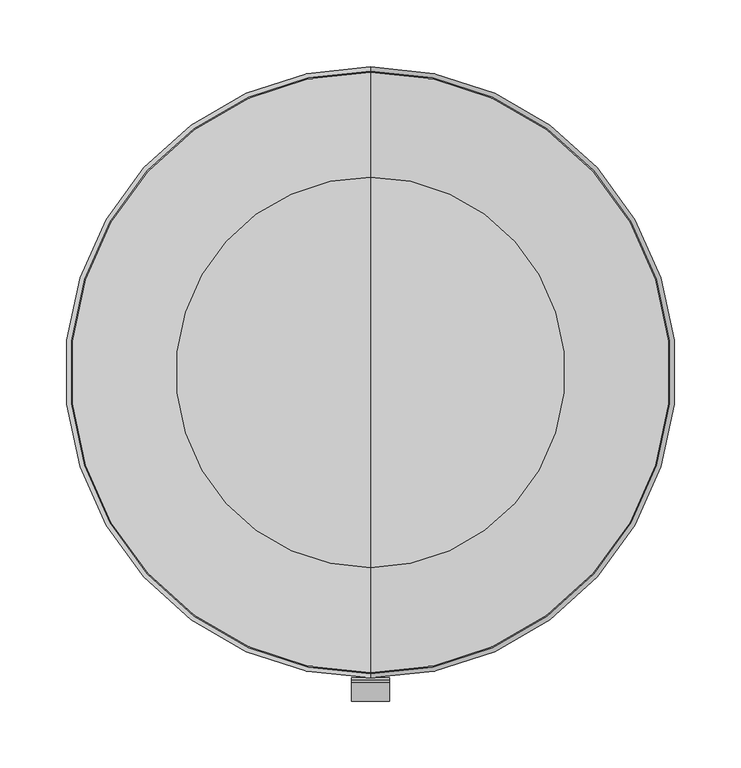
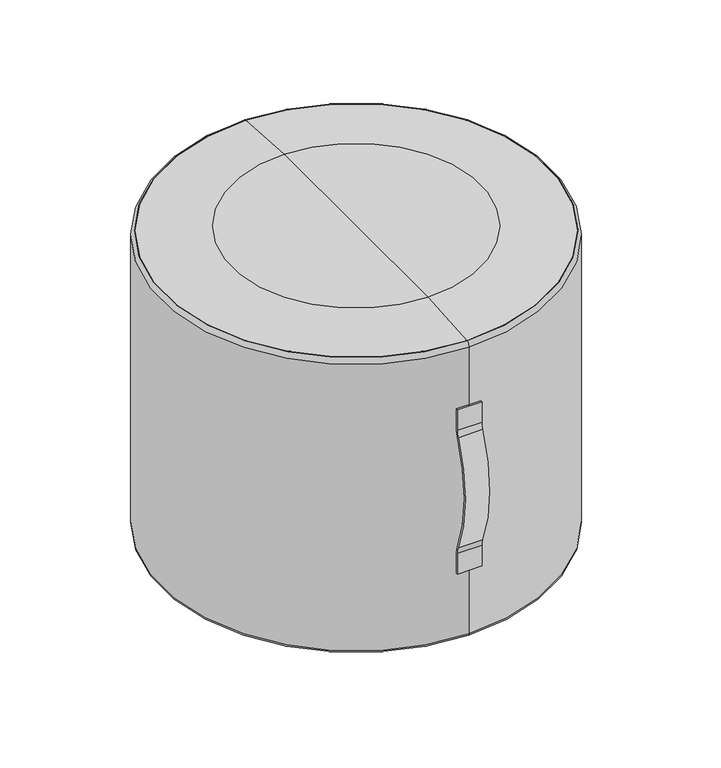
"""IFC4 building model written with IfcOpenShell, lengths in millimetres: furniture geometry, Indiana-Otty-Ottoman_Round : 840-1815RO."""

from ifc_helpers import new_model, si_unit, point, frame, origin, place, context, project, spatial, polyline, circle_curve, ellipse_curve, trimmed, source, transform, mapped, element, save
from ifc_brep_helpers import plane_surface, cylinder_surface, revolved_surface, advanced_brep


def furniture_27540417(model_context):
    return source(origin(), model_context, "Body", "AdvancedBrep", [
        advanced_brep(
        [(-14.2875, -228.463337, 297.85), (-14.2875, -230.0539249, 297.85), (14.2875, -230.0539249, 297.85), (14.2875, -228.463337, 297.85), (-14.2875, -228.463337, 272.2626189), (-14.2875, -230.2174664, 263.8428476), (-14.2875, -230.2174664, 128.6571524), (-14.2875, -228.463337, 120.2373811), (-14.2875, -228.463337, 94.65), (-14.2875, -230.0539249, 94.65), (-14.2875, -230.0539249, 120.2373811), (-14.2875, -231.6757243, 128.0219725), (-14.2875, -231.6757243, 264.4780275), (-14.2875, -230.0539249, 272.2626189), (14.2875, -230.0539249, 272.2626189), (14.2875, -231.6757243, 264.4780275), (14.2875, -231.6757243, 128.0219725), (14.2875, -230.0539249, 120.2373811), (14.2875, -230.0539249, 94.65), (14.2875, -228.463337, 94.65), (14.2875, -228.463337, 120.2373811), (14.2875, -230.2174664, 128.6571524), (14.2875, -230.2174664, 263.8428476), (14.2875, -228.463337, 272.2626189)],
        [
            (0, 1),
            (1, 2, circle_curve(frame((0.0, -0.2977338, 297.85), z_axis=(0.0, 0.0, 1.0), x_axis=(1.0, 0.0, 0.0)), 230.2)),
            (2, 3),
            (3, 0, circle_curve(frame((0.0, -0.2977338, 297.85), z_axis=(0.0, 0.0, -1.0), x_axis=(1.0, 0.0, 0.0)), 228.6125)),
            (0, 4),
            (4, 5, circle_curve(frame((-14.2875, -249.5477338, 272.2626189), z_axis=(-1.0, 0.0, 0.0), x_axis=(0.0, 1.0, 0.0)), 21.0843968)),
            (5, 6, circle_curve(frame((-14.2875, -75.0365507, 196.25), z_axis=(1.0, 0.0, 0.0), x_axis=(0.0, -0.9168043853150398, 0.39933659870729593)), 169.2628419)),
            (6, 7, circle_curve(frame((-14.2875, -249.5477338, 120.2373811), z_axis=(-1.0, 0.0, 0.0), x_axis=(0.0, 0.9168043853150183, 0.3993365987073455)), 21.0843968)),
            (7, 8),
            (8, 9),
            (9, 10),
            (10, 11, circle_curve(frame((-14.2875, -249.5477338, 120.2373811), z_axis=(1.0, 0.0, 0.0), x_axis=(0.0, 0.9168043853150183, 0.3993365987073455)), 19.4938089)),
            (11, 12, circle_curve(frame((-14.2875, -75.0365507, 196.25), z_axis=(-1.0, 0.0, 0.0), x_axis=(0.0, -0.9168043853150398, 0.39933659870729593)), 170.8534297)),
            (12, 13, circle_curve(frame((-14.2875, -249.5477338, 272.2626189), z_axis=(1.0, 0.0, 0.0), x_axis=(0.0, 1.0, 0.0)), 19.4938089)),
            (13, 1),
            (13, 14, circle_curve(frame((0.0, -0.2977338, 272.2626189), z_axis=(0.0, 0.0, 1.0), x_axis=(1.0, 0.0, 0.0)), 230.2)),
            (14, 2),
            (14, 15, circle_curve(frame((14.2875, -249.5477338, 272.2626189), z_axis=(-1.0, 0.0, 0.0), x_axis=(0.0, 1.0, 0.0)), 19.4938089)),
            (15, 16, circle_curve(frame((14.2875, -75.0365507, 196.25), z_axis=(1.0, 0.0, 0.0), x_axis=(0.0, -0.9168043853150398, 0.39933659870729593)), 170.8534297)),
            (16, 17, circle_curve(frame((14.2875, -249.5477338, 120.2373811), z_axis=(-1.0, 0.0, 0.0), x_axis=(0.0, 0.9168043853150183, 0.3993365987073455)), 19.4938089)),
            (17, 18),
            (18, 19),
            (19, 20),
            (20, 21, circle_curve(frame((14.2875, -249.5477338, 120.2373811), z_axis=(1.0, 0.0, 0.0), x_axis=(0.0, 0.9168043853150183, 0.3993365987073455)), 21.0843968)),
            (21, 22, circle_curve(frame((14.2875, -75.0365507, 196.25), z_axis=(-1.0, 0.0, 0.0), x_axis=(0.0, -0.9168043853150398, 0.39933659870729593)), 169.2628419)),
            (22, 23, circle_curve(frame((14.2875, -249.5477338, 272.2626189), z_axis=(1.0, 0.0, 0.0), x_axis=(0.0, 1.0, 0.0)), 21.0843968)),
            (23, 3),
            (23, 4, circle_curve(frame((0.0, -0.2977338, 272.2626189), z_axis=(0.0, 0.0, -1.0), x_axis=(1.0, 0.0, 0.0)), 228.6125)),
            (12, 15, circle_curve(frame((0.0, -21.0342408, 172.7279716), z_axis=(0.0, 0.39933659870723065, 0.9168043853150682), x_axis=(1.0, 0.0, 0.0)), 230.2)),
            (22, 5, circle_curve(frame((0.0, -21.0342408, 172.7279716), z_axis=(0.0, -0.399336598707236, -0.9168043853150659), x_axis=(1.0, 0.0, 0.0)), 228.6125)),
            (11, 16, circle_curve(frame((0.0, -21.0342408, 219.7720284), z_axis=(0.0, -0.3993365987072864, 0.9168043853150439), x_axis=(1.0, 0.0, 0.0)), 230.2)),
            (21, 6, circle_curve(frame((0.0, -21.0342408, 219.7720284), z_axis=(0.0, 0.39933659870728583, -0.9168043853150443), x_axis=(1.0, 0.0, 0.0)), 228.6125)),
            (10, 17, circle_curve(frame((0.0, -0.2977338, 120.2373811), z_axis=(0.0, 0.0, 1.0), x_axis=(1.0, 0.0, 0.0)), 230.2)),
            (20, 7, circle_curve(frame((0.0, -0.2977338, 120.2373811), z_axis=(0.0, 0.0, -1.0), x_axis=(1.0, 0.0, 0.0)), 228.6125)),
            (8, 19, circle_curve(frame((0.0, -0.2977338, 94.65), z_axis=(0.0, 0.0, 1.0), x_axis=(1.0, 0.0, 0.0)), 228.6125)),
            (18, 9, circle_curve(frame((0.0, -0.2977338, 94.65), z_axis=(0.0, 0.0, -1.0), x_axis=(1.0, 0.0, 0.0)), 230.2)),
        ],
        [
            plane_surface(frame((0.0, -230.4977338, 297.85), z_axis=(0.0, 0.0, 1.0), x_axis=(1.0, 0.0, 0.0))),
            plane_surface(frame((-14.2875, -228.463337, 297.85), z_axis=(-1.0, 0.0, 0.0), x_axis=(0.0, 0.0, -1.0))),
            cylinder_surface(frame((0.0, -0.2977338, 297.85), z_axis=(0.0, 0.0, 1.0), x_axis=(1.0, 0.0, 0.0)), 230.2),
            plane_surface(frame((14.2875, -230.0539249, 297.85), z_axis=(1.0, 0.0, 0.0), x_axis=(0.0, 0.0, -1.0))),
            revolved_surface(polyline([(228.6125, -0.2977338, 272.2626189), (228.6125, -0.2977338, 297.85)]), (0.0, -0.2977338, 297.85), (0.0, 0.0, -1.0)),
            revolved_surface(trimmed(ellipse_curve(frame((0.0, -0.2977338, 272.2626189), z_axis=(0.0, 0.0, 1.0), x_axis=(1.0, 0.0, 0.0)), 230.2, 230.2), [point((-14.2875, -230.0539249, 272.2626189))], [point((14.2875, -230.0539249, 272.2626189))], True, "CARTESIAN"), (0.0, -249.5477338, 272.2626189), (-1.0, 0.0, 0.0)),
            revolved_surface(trimmed(ellipse_curve(frame((0.0, -0.2977338, 272.2626189), z_axis=(0.0, 0.0, -1.0), x_axis=(1.0, 0.0, 0.0)), 228.6125, 228.6125), [point((14.2875, -228.463337, 272.2626189))], [point((-14.2875, -228.463337, 272.2626189))], True, "CARTESIAN"), (0.0, -249.5477338, 272.2626189), (-1.0, 0.0, 0.0)),
            revolved_surface(trimmed(ellipse_curve(frame((0.0, -21.0342408, 172.7279716), z_axis=(0.0, 0.39933659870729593, 0.9168043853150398), x_axis=(1.0, 0.0, 0.0)), 230.2, 230.2), [point((-14.2875, -231.6757243, 264.4780275))], [point((14.2875, -231.6757243, 264.4780275))], True, "CARTESIAN"), (0.0, -75.0365507, 196.25), (1.0, 0.0, 0.0)),
            revolved_surface(trimmed(ellipse_curve(frame((0.0, -21.0342408, 172.7279716), z_axis=(0.0, -0.39933659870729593, -0.9168043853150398), x_axis=(1.0, 0.0, 0.0)), 228.6125, 228.6125), [point((14.2875, -230.2174664, 263.8428476))], [point((-14.2875, -230.2174664, 263.8428476))], True, "CARTESIAN"), (0.0, -75.0365507, 196.25), (1.0, 0.0, 0.0)),
            revolved_surface(trimmed(ellipse_curve(frame((0.0, -21.0342408, 219.7720284), z_axis=(0.0, -0.3993365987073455, 0.9168043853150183), x_axis=(1.0, 0.0, 0.0)), 230.2, 230.2), [point((-14.2875, -231.6757243, 128.0219725))], [point((14.2875, -231.6757243, 128.0219725))], True, "CARTESIAN"), (0.0, -249.5477338, 120.2373811), (-1.0, 0.0, 0.0)),
            revolved_surface(trimmed(ellipse_curve(frame((0.0, -21.0342408, 219.7720284), z_axis=(0.0, 0.3993365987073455, -0.9168043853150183), x_axis=(1.0, 0.0, 0.0)), 228.6125, 228.6125), [point((14.2875, -230.2174664, 128.6571524))], [point((-14.2875, -230.2174664, 128.6571524))], True, "CARTESIAN"), (0.0, -249.5477338, 120.2373811), (-1.0, 0.0, 0.0)),
            plane_surface(frame((0.0, -230.4977338, 94.65), z_axis=(0.0, 0.0, -1.0), x_axis=(1.0, 0.0, 0.0))),
            cylinder_surface(frame((0.0, -0.2977338, 120.2373811), z_axis=(0.0, 0.0, 1.0), x_axis=(1.0, 0.0, 0.0)), 230.2),
            revolved_surface(polyline([(228.6125, -0.2977338, 94.65), (228.6125, -0.2977338, 120.2373811)]), (0.0, -0.2977338, 120.2373811), (0.0, 0.0, -1.0)),
        ],
        [
            (0, [[1, 2, 3, 4]]),
            (1, [[-1, 5, 6, 7, 8, 9, 10, 11, 12, 13, 14, 15]]),
            (2, [[-2, -15, 16, 17]]),
            (3, [[-3, -17, 18, 19, 20, 21, 22, 23, 24, 25, 26, 27]]),
            (4, [[-4, -27, 28, -5]]),
            (5, [[-18, -16, -14, 29]]),
            (6, [[-6, -28, -26, 30]]),
            (7, [[-19, -29, -13, 31]]),
            (8, [[-7, -30, -25, 32]]),
            (9, [[-20, -31, -12, 33]]),
            (10, [[-8, -32, -24, 34]]),
            (11, [[35, -22, 36, -10]]),
            (12, [[-33, -11, -36, -21]]),
            (13, [[-34, -23, -35, -9]]),
        ],
    ),
        advanced_brep(
        [(126.4514457, -129.4834071, 19.8875), (126.4514457, -106.9834071, 19.8875), (126.4514457, -151.9834071, 19.8875), (126.4514457, -107.4318989, 4.2458827), (126.4514457, -151.5349153, 4.2458827), (126.4514457, -111.9170406, -0.1125), (126.4514457, -147.0497736, -0.1125), (126.4514457, -119.2157893, -0.1125), (126.4514457, -139.7510249, -0.1125), (126.4514457, -123.1102654, 3.9179615), (126.4514457, -135.8565488, 3.9179615), (126.4514457, -129.4834071, 3.9179615)],
        [
            (0, 1),
            (1, 2, circle_curve(frame((126.4514457, -129.4834071, 19.8875), z_axis=(0.0, 0.0, 1.0), x_axis=(0.0, 1.0, 0.0)), 22.5)),
            (2, 0),
            (2, 1, circle_curve(frame((126.4514457, -129.4834071, 19.8875), z_axis=(0.0, 0.0, 1.0), x_axis=(0.0, 1.0, 0.0)), 22.5)),
            (1, 3),
            (3, 4, circle_curve(frame((126.4514457, -129.4834071, 4.2458827), z_axis=(0.0, 0.0, 1.0), x_axis=(0.0, 1.0, 0.0)), 22.0515082)),
            (4, 2),
            (4, 3, circle_curve(frame((126.4514457, -129.4834071, 4.2458827), z_axis=(0.0, 0.0, 1.0), x_axis=(0.0, 1.0, 0.0)), 22.0515082)),
            (3, 5, circle_curve(frame((126.4514457, -111.9170406, 4.3744851), z_axis=(-1.0, 0.0, 0.0), x_axis=(0.0, -1.0, 0.0)), 4.4869851)),
            (5, 6, circle_curve(frame((126.4514457, -129.4834071, -0.1125), z_axis=(0.0, 0.0, 1.0), x_axis=(0.0, 1.0, 0.0)), 17.5663665)),
            (6, 4, circle_curve(frame((126.4514457, -147.0497736, 4.3744851), z_axis=(-1.0, 0.0, 0.0), x_axis=(0.0, 1.0, 0.0)), 4.4869851)),
            (6, 5, circle_curve(frame((126.4514457, -129.4834071, -0.1125), z_axis=(0.0, 0.0, 1.0), x_axis=(0.0, 1.0, 0.0)), 17.5663665)),
            (5, 7),
            (7, 8, circle_curve(frame((126.4514457, -129.4834071, -0.1125), z_axis=(0.0, 0.0, 1.0), x_axis=(0.0, 1.0, 0.0)), 10.2676178)),
            (8, 6),
            (8, 7, circle_curve(frame((126.4514457, -129.4834071, -0.1125), z_axis=(0.0, 0.0, 1.0), x_axis=(0.0, 1.0, 0.0)), 10.2676178)),
            (7, 9, circle_curve(frame((126.4514457, -119.2157893, 3.7842702), z_axis=(-1.0, 0.0, 0.0), x_axis=(0.0, -1.0, 0.0)), 3.8967702)),
            (9, 10, circle_curve(frame((126.4514457, -129.4834071, 3.9179615), z_axis=(0.0, 0.0, 1.0), x_axis=(0.0, 1.0, 0.0)), 6.3731417)),
            (10, 8, circle_curve(frame((126.4514457, -139.7510249, 3.7842702), z_axis=(-1.0, 0.0, 0.0), x_axis=(0.0, 1.0, 0.0)), 3.8967702)),
            (10, 9, circle_curve(frame((126.4514457, -129.4834071, 3.9179615), z_axis=(0.0, 0.0, 1.0), x_axis=(0.0, 1.0, 0.0)), 6.3731417)),
            (9, 11),
            (11, 10),
        ],
        [
            plane_surface(frame((126.4514457, -129.4834071, 19.8875), z_axis=(0.0, 0.0, 1.0), x_axis=(0.0, 1.0, 0.0))),
            revolved_surface(polyline([(126.4514457, -107.4318989, 4.2458827), (126.4514457, -106.9834071, 19.8875)]), (126.4514457, -129.4834071, 31.0803862), (0.0, 0.0, 1.0)),
            revolved_surface(trimmed(ellipse_curve(frame((126.4514457, -111.9170406, 4.3744851), z_axis=(1.0, 0.0, 0.0), x_axis=(0.0, -1.0, 0.0)), 4.4869851, 4.4869851), [point((126.4514457, -111.9170406, -0.1125))], [point((126.4514457, -107.4318989, 4.2458827))], True, "CARTESIAN"), (126.4514457, -129.4834071, 31.0803862), (0.0, 0.0, 1.0)),
            plane_surface(frame((126.4514457, -129.4834071, -0.1125), z_axis=(0.0, 0.0, -1.0), x_axis=(0.0, 1.0, 0.0))),
            revolved_surface(trimmed(ellipse_curve(frame((126.4514457, -119.2157893, 3.7842702), z_axis=(1.0, 0.0, 0.0), x_axis=(0.0, -1.0, 0.0)), 3.8967702, 3.8967702), [point((126.4514457, -123.1102654, 3.9179615))], [point((126.4514457, -119.2157893, -0.1125))], True, "CARTESIAN"), (126.4514457, -129.4834071, 31.0803862), (0.0, 0.0, 1.0)),
            plane_surface(frame((126.4514457, -129.4834071, 3.9179615), z_axis=(0.0, 0.0, -1.0), x_axis=(0.0, 1.0, 0.0))),
        ],
        [
            (0, [[1, 2, 3]]),
            (0, [[-3, 4, -1]]),
            (1, [[-2, 5, 6, 7]]),
            (1, [[-4, -7, 8, -5]]),
            (2, [[-6, 9, 10, 11]]),
            (2, [[-8, -11, 12, -9]]),
            (3, [[-10, 13, 14, 15]]),
            (3, [[-12, -15, 16, -13]]),
            (4, [[-14, 17, 18, 19]]),
            (4, [[-16, -19, 20, -17]]),
            (5, [[-18, 21, 22]]),
            (5, [[-20, -22, -21]]),
        ],
    ),
        advanced_brep(
        [(-129.4834071, -126.4514457, 19.8875), (-106.9834071, -126.4514457, 19.8875), (-151.9834071, -126.4514457, 19.8875), (-107.4318989, -126.4514457, 4.2458827), (-151.5349153, -126.4514457, 4.2458827), (-111.9170406, -126.4514457, -0.1125), (-147.0497736, -126.4514457, -0.1125), (-119.2157893, -126.4514457, -0.1125), (-139.7510249, -126.4514457, -0.1125), (-123.1102654, -126.4514457, 3.9179615), (-135.8565488, -126.4514457, 3.9179615), (-129.4834071, -126.4514457, 3.9179615)],
        [
            (0, 1),
            (1, 2, circle_curve(frame((-129.4834071, -126.4514457, 19.8875), z_axis=(0.0, 0.0, 1.0), x_axis=(1.0, 0.0, 0.0)), 22.5)),
            (2, 0),
            (2, 1, circle_curve(frame((-129.4834071, -126.4514457, 19.8875), z_axis=(0.0, 0.0, 1.0), x_axis=(1.0, 0.0, 0.0)), 22.5)),
            (1, 3),
            (3, 4, circle_curve(frame((-129.4834071, -126.4514457, 4.2458827), z_axis=(0.0, 0.0, 1.0), x_axis=(1.0, 0.0, 0.0)), 22.0515082)),
            (4, 2),
            (4, 3, circle_curve(frame((-129.4834071, -126.4514457, 4.2458827), z_axis=(0.0, 0.0, 1.0), x_axis=(1.0, 0.0, 0.0)), 22.0515082)),
            (3, 5, circle_curve(frame((-111.9170406, -126.4514457, 4.3744851), z_axis=(0.0, 1.0, 0.0), x_axis=(-1.0, 0.0, 0.0)), 4.4869851)),
            (5, 6, circle_curve(frame((-129.4834071, -126.4514457, -0.1125), z_axis=(0.0, 0.0, 1.0), x_axis=(1.0, 0.0, 0.0)), 17.5663665)),
            (6, 4, circle_curve(frame((-147.0497736, -126.4514457, 4.3744851), z_axis=(0.0, 1.0, 0.0), x_axis=(1.0, 0.0, 0.0)), 4.4869851)),
            (6, 5, circle_curve(frame((-129.4834071, -126.4514457, -0.1125), z_axis=(0.0, 0.0, 1.0), x_axis=(1.0, 0.0, 0.0)), 17.5663665)),
            (5, 7),
            (7, 8, circle_curve(frame((-129.4834071, -126.4514457, -0.1125), z_axis=(0.0, 0.0, 1.0), x_axis=(1.0, 0.0, 0.0)), 10.2676178)),
            (8, 6),
            (8, 7, circle_curve(frame((-129.4834071, -126.4514457, -0.1125), z_axis=(0.0, 0.0, 1.0), x_axis=(1.0, 0.0, 0.0)), 10.2676178)),
            (7, 9, circle_curve(frame((-119.2157893, -126.4514457, 3.7842702), z_axis=(0.0, 1.0, 0.0), x_axis=(-1.0, 0.0, 0.0)), 3.8967702)),
            (9, 10, circle_curve(frame((-129.4834071, -126.4514457, 3.9179615), z_axis=(0.0, 0.0, 1.0), x_axis=(1.0, 0.0, 0.0)), 6.3731417)),
            (10, 8, circle_curve(frame((-139.7510249, -126.4514457, 3.7842702), z_axis=(0.0, 1.0, 0.0), x_axis=(1.0, 0.0, 0.0)), 3.8967702)),
            (10, 9, circle_curve(frame((-129.4834071, -126.4514457, 3.9179615), z_axis=(0.0, 0.0, 1.0), x_axis=(1.0, 0.0, 0.0)), 6.3731417)),
            (9, 11),
            (11, 10),
        ],
        [
            plane_surface(frame((-129.4834071, -126.4514457, 19.8875), z_axis=(0.0, 0.0, 1.0), x_axis=(1.0, 0.0, 0.0))),
            revolved_surface(polyline([(-107.4318989, -126.4514457, 4.2458827), (-106.9834071, -126.4514457, 19.8875)]), (-129.4834071, -126.4514457, 31.0803862), (0.0, 0.0, 1.0)),
            revolved_surface(trimmed(ellipse_curve(frame((-111.9170406, -126.4514457, 4.3744851), z_axis=(0.0, -1.0, 0.0), x_axis=(-1.0, 0.0, 0.0)), 4.4869851, 4.4869851), [point((-111.9170406, -126.4514457, -0.1125))], [point((-107.4318989, -126.4514457, 4.2458827))], True, "CARTESIAN"), (-129.4834071, -126.4514457, 31.0803862), (0.0, 0.0, 1.0)),
            plane_surface(frame((-129.4834071, -126.4514457, -0.1125), z_axis=(0.0, 0.0, -1.0), x_axis=(1.0, 0.0, 0.0))),
            revolved_surface(trimmed(ellipse_curve(frame((-119.2157893, -126.4514457, 3.7842702), z_axis=(0.0, -1.0, 0.0), x_axis=(-1.0, 0.0, 0.0)), 3.8967702, 3.8967702), [point((-123.1102654, -126.4514457, 3.9179615))], [point((-119.2157893, -126.4514457, -0.1125))], True, "CARTESIAN"), (-129.4834071, -126.4514457, 31.0803862), (0.0, 0.0, 1.0)),
            plane_surface(frame((-129.4834071, -126.4514457, 3.9179615), z_axis=(0.0, 0.0, -1.0), x_axis=(1.0, 0.0, 0.0))),
        ],
        [
            (0, [[1, 2, 3]]),
            (0, [[-3, 4, -1]]),
            (1, [[-2, 5, 6, 7]]),
            (1, [[-4, -7, 8, -5]]),
            (2, [[-6, 9, 10, 11]]),
            (2, [[-8, -11, 12, -9]]),
            (3, [[-10, 13, 14, 15]]),
            (3, [[-12, -15, 16, -13]]),
            (4, [[-14, 17, 18, 19]]),
            (4, [[-16, -19, 20, -17]]),
            (5, [[-18, 21, 22]]),
            (5, [[-20, -22, -21]]),
        ],
    ),
        advanced_brep(
        [(129.4834071, 126.4514457, 19.8875), (106.9834071, 126.4514457, 19.8875), (151.9834071, 126.4514457, 19.8875), (107.4318989, 126.4514457, 4.2458827), (151.5349153, 126.4514457, 4.2458827), (111.9170406, 126.4514457, -0.1125), (147.0497736, 126.4514457, -0.1125), (119.2157893, 126.4514457, -0.1125), (139.7510249, 126.4514457, -0.1125), (123.1102654, 126.4514457, 3.9179615), (135.8565488, 126.4514457, 3.9179615), (129.4834071, 126.4514457, 3.9179615)],
        [
            (0, 1),
            (1, 2, circle_curve(frame((129.4834071, 126.4514457, 19.8875), z_axis=(0.0, 0.0, 1.0), x_axis=(-1.0, 0.0, 0.0)), 22.5)),
            (2, 0),
            (2, 1, circle_curve(frame((129.4834071, 126.4514457, 19.8875), z_axis=(0.0, 0.0, 1.0), x_axis=(-1.0, 0.0, 0.0)), 22.5)),
            (1, 3),
            (3, 4, circle_curve(frame((129.4834071, 126.4514457, 4.2458827), z_axis=(0.0, 0.0, 1.0), x_axis=(-1.0, 0.0, 0.0)), 22.0515082)),
            (4, 2),
            (4, 3, circle_curve(frame((129.4834071, 126.4514457, 4.2458827), z_axis=(0.0, 0.0, 1.0), x_axis=(-1.0, 0.0, 0.0)), 22.0515082)),
            (3, 5, circle_curve(frame((111.9170406, 126.4514457, 4.3744851), z_axis=(0.0, -1.0, 0.0), x_axis=(1.0, 0.0, 0.0)), 4.4869851)),
            (5, 6, circle_curve(frame((129.4834071, 126.4514457, -0.1125), z_axis=(0.0, 0.0, 1.0), x_axis=(-1.0, 0.0, 0.0)), 17.5663665)),
            (6, 4, circle_curve(frame((147.0497736, 126.4514457, 4.3744851), z_axis=(0.0, -1.0, 0.0), x_axis=(-1.0, 0.0, 0.0)), 4.4869851)),
            (6, 5, circle_curve(frame((129.4834071, 126.4514457, -0.1125), z_axis=(0.0, 0.0, 1.0), x_axis=(-1.0, 0.0, 0.0)), 17.5663665)),
            (5, 7),
            (7, 8, circle_curve(frame((129.4834071, 126.4514457, -0.1125), z_axis=(0.0, 0.0, 1.0), x_axis=(-1.0, 0.0, 0.0)), 10.2676178)),
            (8, 6),
            (8, 7, circle_curve(frame((129.4834071, 126.4514457, -0.1125), z_axis=(0.0, 0.0, 1.0), x_axis=(-1.0, 0.0, 0.0)), 10.2676178)),
            (7, 9, circle_curve(frame((119.2157893, 126.4514457, 3.7842702), z_axis=(0.0, -1.0, 0.0), x_axis=(1.0, 0.0, 0.0)), 3.8967702)),
            (9, 10, circle_curve(frame((129.4834071, 126.4514457, 3.9179615), z_axis=(0.0, 0.0, 1.0), x_axis=(-1.0, 0.0, 0.0)), 6.3731417)),
            (10, 8, circle_curve(frame((139.7510249, 126.4514457, 3.7842702), z_axis=(0.0, -1.0, 0.0), x_axis=(-1.0, 0.0, 0.0)), 3.8967702)),
            (10, 9, circle_curve(frame((129.4834071, 126.4514457, 3.9179615), z_axis=(0.0, 0.0, 1.0), x_axis=(-1.0, 0.0, 0.0)), 6.3731417)),
            (9, 11),
            (11, 10),
        ],
        [
            plane_surface(frame((129.4834071, 126.4514457, 19.8875), z_axis=(0.0, 0.0, 1.0), x_axis=(-1.0, 0.0, 0.0))),
            revolved_surface(polyline([(107.4318989, 126.4514457, 4.2458827), (106.9834071, 126.4514457, 19.8875)]), (129.4834071, 126.4514457, 31.0803862), (0.0, 0.0, 1.0)),
            revolved_surface(trimmed(ellipse_curve(frame((111.9170406, 126.4514457, 4.3744851), z_axis=(0.0, 1.0, 0.0), x_axis=(1.0, 0.0, 0.0)), 4.4869851, 4.4869851), [point((111.9170406, 126.4514457, -0.1125))], [point((107.4318989, 126.4514457, 4.2458827))], True, "CARTESIAN"), (129.4834071, 126.4514457, 31.0803862), (0.0, 0.0, 1.0)),
            plane_surface(frame((129.4834071, 126.4514457, -0.1125), z_axis=(0.0, 0.0, -1.0), x_axis=(-1.0, 0.0, 0.0))),
            revolved_surface(trimmed(ellipse_curve(frame((119.2157893, 126.4514457, 3.7842702), z_axis=(0.0, 1.0, 0.0), x_axis=(1.0, 0.0, 0.0)), 3.8967702, 3.8967702), [point((123.1102654, 126.4514457, 3.9179615))], [point((119.2157893, 126.4514457, -0.1125))], True, "CARTESIAN"), (129.4834071, 126.4514457, 31.0803862), (0.0, 0.0, 1.0)),
            plane_surface(frame((129.4834071, 126.4514457, 3.9179615), z_axis=(0.0, 0.0, -1.0), x_axis=(-1.0, 0.0, 0.0))),
        ],
        [
            (0, [[1, 2, 3]]),
            (0, [[-3, 4, -1]]),
            (1, [[-2, 5, 6, 7]]),
            (1, [[-4, -7, 8, -5]]),
            (2, [[-6, 9, 10, 11]]),
            (2, [[-8, -11, 12, -9]]),
            (3, [[-10, 13, 14, 15]]),
            (3, [[-12, -15, 16, -13]]),
            (4, [[-14, 17, 18, 19]]),
            (4, [[-16, -19, 20, -17]]),
            (5, [[-18, 21, 22]]),
            (5, [[-20, -22, -21]]),
        ],
    ),
        advanced_brep(
        [(-126.4514457, 129.4834071, 19.8875), (-126.4514457, 106.9834071, 19.8875), (-126.4514457, 151.9834071, 19.8875), (-126.4514457, 107.4318989, 4.2458827), (-126.4514457, 151.5349153, 4.2458827), (-126.4514457, 111.9170406, -0.1125), (-126.4514457, 147.0497736, -0.1125), (-126.4514457, 119.2157893, -0.1125), (-126.4514457, 139.7510249, -0.1125), (-126.4514457, 123.1102654, 3.9179615), (-126.4514457, 135.8565488, 3.9179615), (-126.4514457, 129.4834071, 3.9179615)],
        [
            (0, 1),
            (1, 2, circle_curve(frame((-126.4514457, 129.4834071, 19.8875), z_axis=(0.0, 0.0, 1.0), x_axis=(0.0, -1.0, 0.0)), 22.5)),
            (2, 0),
            (2, 1, circle_curve(frame((-126.4514457, 129.4834071, 19.8875), z_axis=(0.0, 0.0, 1.0), x_axis=(0.0, -1.0, 0.0)), 22.5)),
            (1, 3),
            (3, 4, circle_curve(frame((-126.4514457, 129.4834071, 4.2458827), z_axis=(0.0, 0.0, 1.0), x_axis=(0.0, -1.0, 0.0)), 22.0515082)),
            (4, 2),
            (4, 3, circle_curve(frame((-126.4514457, 129.4834071, 4.2458827), z_axis=(0.0, 0.0, 1.0), x_axis=(0.0, -1.0, 0.0)), 22.0515082)),
            (3, 5, circle_curve(frame((-126.4514457, 111.9170406, 4.3744851), z_axis=(1.0, 0.0, 0.0), x_axis=(0.0, 1.0, 0.0)), 4.4869851)),
            (5, 6, circle_curve(frame((-126.4514457, 129.4834071, -0.1125), z_axis=(0.0, 0.0, 1.0), x_axis=(0.0, -1.0, 0.0)), 17.5663665)),
            (6, 4, circle_curve(frame((-126.4514457, 147.0497736, 4.3744851), z_axis=(1.0, 0.0, 0.0), x_axis=(0.0, -1.0, 0.0)), 4.4869851)),
            (6, 5, circle_curve(frame((-126.4514457, 129.4834071, -0.1125), z_axis=(0.0, 0.0, 1.0), x_axis=(0.0, -1.0, 0.0)), 17.5663665)),
            (5, 7),
            (7, 8, circle_curve(frame((-126.4514457, 129.4834071, -0.1125), z_axis=(0.0, 0.0, 1.0), x_axis=(0.0, -1.0, 0.0)), 10.2676178)),
            (8, 6),
            (8, 7, circle_curve(frame((-126.4514457, 129.4834071, -0.1125), z_axis=(0.0, 0.0, 1.0), x_axis=(0.0, -1.0, 0.0)), 10.2676178)),
            (7, 9, circle_curve(frame((-126.4514457, 119.2157893, 3.7842702), z_axis=(1.0, 0.0, 0.0), x_axis=(0.0, 1.0, 0.0)), 3.8967702)),
            (9, 10, circle_curve(frame((-126.4514457, 129.4834071, 3.9179615), z_axis=(0.0, 0.0, 1.0), x_axis=(0.0, -1.0, 0.0)), 6.3731417)),
            (10, 8, circle_curve(frame((-126.4514457, 139.7510249, 3.7842702), z_axis=(1.0, 0.0, 0.0), x_axis=(0.0, -1.0, 0.0)), 3.8967702)),
            (10, 9, circle_curve(frame((-126.4514457, 129.4834071, 3.9179615), z_axis=(0.0, 0.0, 1.0), x_axis=(0.0, -1.0, 0.0)), 6.3731417)),
            (9, 11),
            (11, 10),
        ],
        [
            plane_surface(frame((-126.4514457, 129.4834071, 19.8875), z_axis=(0.0, 0.0, 1.0), x_axis=(0.0, -1.0, 0.0))),
            revolved_surface(polyline([(-126.4514457, 107.4318989, 4.2458827), (-126.4514457, 106.9834071, 19.8875)]), (-126.4514457, 129.4834071, 31.0803862), (0.0, 0.0, 1.0)),
            revolved_surface(trimmed(ellipse_curve(frame((-126.4514457, 111.9170406, 4.3744851), z_axis=(-1.0, 0.0, 0.0), x_axis=(0.0, 1.0, 0.0)), 4.4869851, 4.4869851), [point((-126.4514457, 111.9170406, -0.1125))], [point((-126.4514457, 107.4318989, 4.2458827))], True, "CARTESIAN"), (-126.4514457, 129.4834071, 31.0803862), (0.0, 0.0, 1.0)),
            plane_surface(frame((-126.4514457, 129.4834071, -0.1125), z_axis=(0.0, 0.0, -1.0), x_axis=(0.0, -1.0, 0.0))),
            revolved_surface(trimmed(ellipse_curve(frame((-126.4514457, 119.2157893, 3.7842702), z_axis=(-1.0, 0.0, 0.0), x_axis=(0.0, 1.0, 0.0)), 3.8967702, 3.8967702), [point((-126.4514457, 123.1102654, 3.9179615))], [point((-126.4514457, 119.2157893, -0.1125))], True, "CARTESIAN"), (-126.4514457, 129.4834071, 31.0803862), (0.0, 0.0, 1.0)),
            plane_surface(frame((-126.4514457, 129.4834071, 3.9179615), z_axis=(0.0, 0.0, -1.0), x_axis=(0.0, -1.0, 0.0))),
        ],
        [
            (0, [[1, 2, 3]]),
            (0, [[-3, 4, -1]]),
            (1, [[-2, 5, 6, 7]]),
            (1, [[-4, -7, 8, -5]]),
            (2, [[-6, 9, 10, 11]]),
            (2, [[-8, -11, 12, -9]]),
            (3, [[-10, 13, 14, 15]]),
            (3, [[-12, -15, 16, -13]]),
            (4, [[-14, 17, 18, 19]]),
            (4, [[-16, -19, 20, -17]]),
            (5, [[-18, 21, 22]]),
            (5, [[-20, -22, -21]]),
        ],
    ),
        advanced_brep(
        [(0.0, 228.6, 14.675), (0.0, 225.425, 11.5), (0.0, -225.425, 11.5), (0.0, -228.6, 14.675), (0.0, 228.6, 369.0), (0.0, -228.6, 369.0), (0.0, 225.3317905, 375.2073863), (0.0, -225.3317905, 375.2073863), (0.0, 224.6, 374.9999966), (0.0, -224.6, 374.9999966), (0.0, 146.05, 381.0), (0.0, -146.05, 381.0), (0.0, 0.0, 381.0), (0.0, 0.0, 11.5), (-129.4834071, -149.4701957, 11.5), (-129.4834071, -103.4326957, 11.5), (-149.4701957, 129.4834071, 11.5), (-103.4326957, 129.4834071, 11.5), (149.4701957, -129.4834071, 11.5), (103.4326957, -129.4834071, 11.5), (129.4834071, 149.4701957, 11.5), (129.4834071, 103.4326957, 11.5), (-129.4834071, -103.4326957, 19.834375), (-129.4834071, -149.4701957, 19.834375), (103.4326957, -129.4834071, 19.834375), (149.4701957, -129.4834071, 19.834375), (129.4834071, 103.4326957, 19.834375), (129.4834071, 149.4701957, 19.834375), (-103.4326957, 129.4834071, 19.834375), (-149.4701957, 129.4834071, 19.834375)],
        [
            (0, 1, circle_curve(frame((0.0, 225.425, 14.675), z_axis=(-1.0, 0.0, 0.0), x_axis=(0.0, 1.0, 0.0)), 3.175)),
            (1, 2, circle_curve(frame((0.0, 0.0, 11.5), z_axis=(0.0, 0.0, 1.0), x_axis=(0.0, 1.0, 0.0)), 225.425)),
            (2, 3, circle_curve(frame((0.0, -225.425, 14.675), z_axis=(-1.0, 0.0, 0.0), x_axis=(0.0, -1.0, 0.0)), 3.175)),
            (3, 0, circle_curve(frame((0.0, 0.0, 14.675), z_axis=(0.0, 0.0, -1.0), x_axis=(0.0, 1.0, 0.0)), 228.6)),
            (0, 3, circle_curve(frame((0.0, 0.0, 14.675), z_axis=(0.0, 0.0, -1.0), x_axis=(0.0, 1.0, 0.0)), 228.6)),
            (2, 1, circle_curve(frame((0.0, 0.0, 11.5), z_axis=(0.0, 0.0, 1.0), x_axis=(0.0, 1.0, 0.0)), 225.425)),
            (4, 0),
            (3, 5),
            (5, 4, circle_curve(frame((0.0, 0.0, 369.0), z_axis=(0.0, 0.0, -1.0), x_axis=(0.0, 1.0, 0.0)), 228.6)),
            (4, 5, circle_curve(frame((0.0, 0.0, 369.0), z_axis=(0.0, 0.0, -1.0), x_axis=(0.0, 1.0, 0.0)), 228.6)),
            (6, 4, circle_curve(frame((0.0, 221.0709786, 369.0), z_axis=(-1.0, 0.0, 0.0), x_axis=(0.0, 1.0, 0.0)), 7.5290214)),
            (5, 7, circle_curve(frame((0.0, -221.0709786, 369.0), z_axis=(-1.0, 0.0, 0.0), x_axis=(0.0, -1.0, 0.0)), 7.5290214)),
            (7, 6, circle_curve(frame((0.0, 0.0, 375.2073863), z_axis=(0.0, 0.0, -1.0), x_axis=(0.0, 1.0, 0.0)), 225.3317905)),
            (6, 7, circle_curve(frame((0.0, 0.0, 375.2073863), z_axis=(0.0, 0.0, -1.0), x_axis=(0.0, 1.0, 0.0)), 225.3317905)),
            (8, 6, circle_curve(frame((0.0, 225.0520185, 374.799799), z_axis=(-1.0, 0.0, 0.0), x_axis=(0.0, 1.0, 0.0)), 0.4943681)),
            (7, 9, circle_curve(frame((0.0, -225.0520185, 374.799799), z_axis=(-1.0, 0.0, 0.0), x_axis=(0.0, -1.0, 0.0)), 0.4943681)),
            (9, 8, circle_curve(frame((0.0, 0.0, 374.9999966), z_axis=(0.0, 0.0, -1.0), x_axis=(0.0, 1.0, 0.0)), 224.6)),
            (8, 9, circle_curve(frame((0.0, 0.0, 374.9999966), z_axis=(0.0, 0.0, -1.0), x_axis=(0.0, 1.0, 0.0)), 224.6)),
            (10, 8, circle_curve(frame((0.0, 146.05, -136.1749222), z_axis=(-1.0, 0.0, 0.0), x_axis=(0.0, 1.0, 0.0)), 517.1749222)),
            (9, 11, circle_curve(frame((0.0, -146.05, -136.1749222), z_axis=(-1.0, 0.0, 0.0), x_axis=(0.0, -1.0, 0.0)), 517.1749222)),
            (11, 10, circle_curve(frame((0.0, 0.0, 381.0), z_axis=(0.0, 0.0, -1.0), x_axis=(0.0, 1.0, 0.0)), 146.05)),
            (10, 11, circle_curve(frame((0.0, 0.0, 381.0), z_axis=(0.0, 0.0, -1.0), x_axis=(0.0, 1.0, 0.0)), 146.05)),
            (12, 10),
            (11, 12),
            (1, 13),
            (13, 2),
            (14, 15, circle_curve(frame((-129.4834071, -126.4514457, 11.5), z_axis=(0.0, 0.0, 1.0), x_axis=(0.0, -1.0, 0.0)), 23.01875)),
            (15, 14, circle_curve(frame((-129.4834071, -126.4514457, 11.5), z_axis=(0.0, 0.0, 1.0), x_axis=(0.0, -1.0, 0.0)), 23.01875)),
            (16, 17, circle_curve(frame((-126.4514457, 129.4834071, 11.5), z_axis=(0.0, 0.0, 1.0), x_axis=(-1.0, 0.0, 0.0)), 23.01875)),
            (17, 16, circle_curve(frame((-126.4514457, 129.4834071, 11.5), z_axis=(0.0, 0.0, 1.0), x_axis=(-1.0, 0.0, 0.0)), 23.01875)),
            (18, 19, circle_curve(frame((126.4514457, -129.4834071, 11.5), z_axis=(0.0, 0.0, 1.0), x_axis=(1.0, 0.0, 0.0)), 23.01875)),
            (19, 18, circle_curve(frame((126.4514457, -129.4834071, 11.5), z_axis=(0.0, 0.0, 1.0), x_axis=(1.0, 0.0, 0.0)), 23.01875)),
            (20, 21, circle_curve(frame((129.4834071, 126.4514457, 11.5), z_axis=(0.0, 0.0, 1.0), x_axis=(0.0, 1.0, 0.0)), 23.01875)),
            (21, 20, circle_curve(frame((129.4834071, 126.4514457, 11.5), z_axis=(0.0, 0.0, 1.0), x_axis=(0.0, 1.0, 0.0)), 23.01875)),
            (22, 23, circle_curve(frame((-129.4834071, -126.4514457, 19.834375), z_axis=(0.0, 0.0, -1.0), x_axis=(0.0, -1.0, 0.0)), 23.01875)),
            (23, 22, circle_curve(frame((-129.4834071, -126.4514457, 19.834375), z_axis=(0.0, 0.0, -1.0), x_axis=(0.0, -1.0, 0.0)), 23.01875)),
            (22, 15),
            (14, 23),
            (24, 25, circle_curve(frame((126.4514457, -129.4834071, 19.834375), z_axis=(0.0, 0.0, -1.0), x_axis=(1.0, 0.0, 0.0)), 23.01875)),
            (25, 24, circle_curve(frame((126.4514457, -129.4834071, 19.834375), z_axis=(0.0, 0.0, -1.0), x_axis=(1.0, 0.0, 0.0)), 23.01875)),
            (24, 19),
            (18, 25),
            (26, 27, circle_curve(frame((129.4834071, 126.4514457, 19.834375), z_axis=(0.0, 0.0, -1.0), x_axis=(0.0, 1.0, 0.0)), 23.01875)),
            (27, 26, circle_curve(frame((129.4834071, 126.4514457, 19.834375), z_axis=(0.0, 0.0, -1.0), x_axis=(0.0, 1.0, 0.0)), 23.01875)),
            (26, 21),
            (20, 27),
            (28, 29, circle_curve(frame((-126.4514457, 129.4834071, 19.834375), z_axis=(0.0, 0.0, -1.0), x_axis=(-1.0, 0.0, 0.0)), 23.01875)),
            (29, 28, circle_curve(frame((-126.4514457, 129.4834071, 19.834375), z_axis=(0.0, 0.0, -1.0), x_axis=(-1.0, 0.0, 0.0)), 23.01875)),
            (28, 17),
            (16, 29),
        ],
        [
            revolved_surface(trimmed(ellipse_curve(frame((0.0, 225.425, 14.675), z_axis=(1.0, 0.0, 0.0), x_axis=(0.0, 1.0, 0.0)), 3.175, 3.175), [point((0.0, 225.425, 11.5))], [point((0.0, 228.6, 14.675))], True, "CARTESIAN"), (0.0, 0.0, 635.0), (0.0, 0.0, 1.0)),
            cylinder_surface(frame((0.0, 0.0, 635.0), z_axis=(0.0, 0.0, 1.0), x_axis=(0.0, 1.0, 0.0)), 228.6),
            revolved_surface(trimmed(ellipse_curve(frame((0.0, 221.0709786, 369.0), z_axis=(1.0, 0.0, 0.0), x_axis=(0.0, 1.0, 0.0)), 7.5290214, 7.5290214), [point((0.0, 228.6, 369.0))], [point((0.0, 225.3317905, 375.2073863))], True, "CARTESIAN"), (0.0, 0.0, 635.0), (0.0, 0.0, 1.0)),
            revolved_surface(trimmed(ellipse_curve(frame((0.0, 225.0520185, 374.799799), z_axis=(1.0, 0.0, 0.0), x_axis=(0.0, 1.0, 0.0)), 0.4943681, 0.4943681), [point((0.0, 225.3317905, 375.2073863))], [point((0.0, 224.6, 374.9999966))], True, "CARTESIAN"), (0.0, 0.0, 635.0), (0.0, 0.0, 1.0)),
            revolved_surface(trimmed(ellipse_curve(frame((0.0, 146.05, -136.1749222), z_axis=(1.0, 0.0, 0.0), x_axis=(0.0, 1.0, 0.0)), 517.1749222, 517.1749222), [point((0.0, 224.6, 374.9999966))], [point((0.0, 146.05, 381.0))], True, "CARTESIAN"), (0.0, 0.0, 635.0), (0.0, 0.0, 1.0)),
            plane_surface(frame((0.0, 0.0, 381.0), z_axis=(0.0, 0.0, 1.0), x_axis=(0.0, 1.0, 0.0))),
            plane_surface(frame((0.0, 0.0, 11.5), z_axis=(0.0, 0.0, -1.0), x_axis=(0.0, 1.0, 0.0))),
            plane_surface(frame((-129.4834071, -149.4701957, 19.834375), z_axis=(0.0, 0.0, -1.0), x_axis=(1.0, 0.0, 0.0))),
            revolved_surface(polyline([(-129.4834071, -149.4701957, 11.5), (-129.4834071, -149.4701957, 19.834375)]), (-129.4834071, -126.4514457, 19.834375), (0.0, 0.0, -1.0)),
            plane_surface(frame((149.4701957, -129.4834071, 19.834375), z_axis=(0.0, 0.0, -1.0), x_axis=(0.0, 1.0, 0.0))),
            revolved_surface(polyline([(149.4701957, -129.4834071, 11.5), (149.4701957, -129.4834071, 19.834375)]), (126.4514457, -129.4834071, 19.834375), (0.0, 0.0, -1.0)),
            plane_surface(frame((129.4834071, 149.4701957, 19.834375), z_axis=(0.0, 0.0, -1.0), x_axis=(-1.0, 0.0, 0.0))),
            revolved_surface(polyline([(129.4834071, 149.4701957, 11.5), (129.4834071, 149.4701957, 19.834375)]), (129.4834071, 126.4514457, 19.834375), (0.0, 0.0, -1.0)),
            plane_surface(frame((-149.4701957, 129.4834071, 19.834375), z_axis=(0.0, 0.0, -1.0), x_axis=(0.0, -1.0, 0.0))),
            revolved_surface(polyline([(-149.4701957, 129.4834071, 11.5), (-149.4701957, 129.4834071, 19.834375)]), (-126.4514457, 129.4834071, 19.834375), (0.0, 0.0, -1.0)),
        ],
        [
            (0, [[1, 2, 3, 4]]),
            (0, [[-1, 5, -3, 6]]),
            (1, [[7, -4, 8, 9]]),
            (1, [[-7, 10, -8, -5]]),
            (2, [[11, -9, 12, 13]]),
            (2, [[-11, 14, -12, -10]]),
            (3, [[15, -13, 16, 17]]),
            (3, [[-15, 18, -16, -14]]),
            (4, [[19, -17, 20, 21]]),
            (4, [[-19, 22, -20, -18]]),
            (5, [[23, -21, 24]]),
            (5, [[-23, -24, -22]]),
            (6, [[25, 26, -2], [27, 28], [29, 30]]),
            (6, [[-25, -6, -26], [31, 32], [33, 34]]),
            (7, [[35, 36]]),
            (8, [[-35, 37, -27, 38]]),
            (8, [[-36, -38, -28, -37]]),
            (9, [[39, 40]]),
            (10, [[-39, 41, -31, 42]]),
            (10, [[-40, -42, -32, -41]]),
            (11, [[43, 44]]),
            (12, [[-43, 45, -33, 46]]),
            (12, [[-44, -46, -34, -45]]),
            (13, [[47, 48]]),
            (14, [[-47, 49, -29, 50]]),
            (14, [[-48, -50, -30, -49]]),
        ],
    ),
    ])


if __name__ == "__main__":
    model = new_model("IFC4")
    model_context = context("Model", 3, world=origin())
    ifc_project = project(units=[si_unit("LENGTHUNIT", "METRE", prefix="MILLI")], contexts=[model_context])
    site = spatial("IfcSite", under=ifc_project)
    building = spatial("IfcBuilding", under=site)
    placement = place(None, origin())
    furniture_shape = furniture_27540417(model_context)
    element("IfcFurniture", 1, ObjectType="Indiana-Otty-Ottoman_Round : 840-1815RO", at=placement, inside=building, context=model_context, shape_type="MappedRepresentation", body=[
        mapped(furniture_shape, transform((0.0, 0.0, 0.0), x_axis=(1.0, 0.0, 0.0), y_axis=(0.0, 1.0, 0.0), z_axis=(0.0, 0.0, 1.0))),
    ])
    save(model, "model.ifc")
